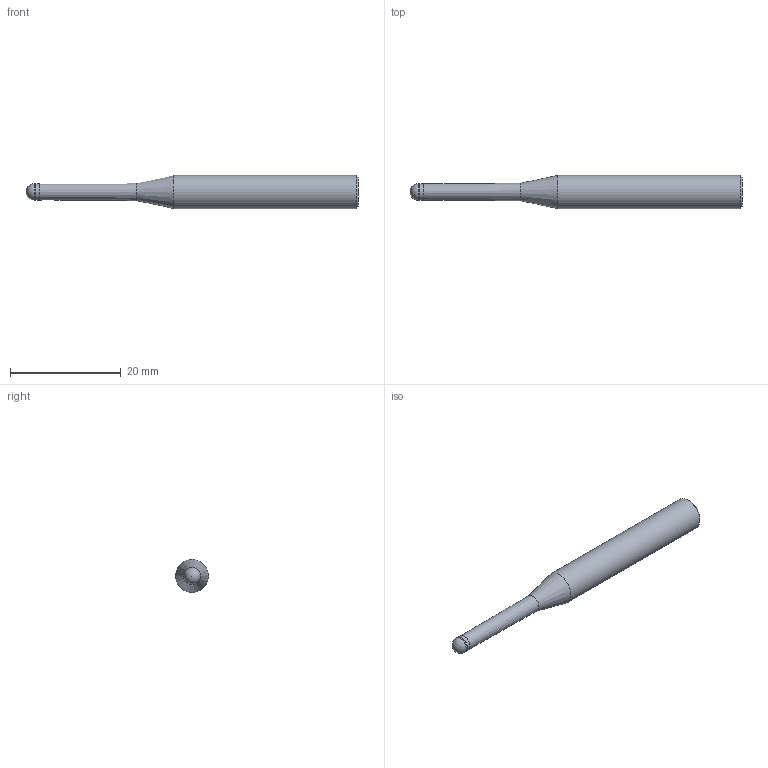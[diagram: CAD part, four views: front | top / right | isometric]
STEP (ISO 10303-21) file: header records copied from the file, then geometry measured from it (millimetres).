
FILE_DESCRIPTION(/* description */ (''),/* implementation_level */ '2;1');
FILE_NAME(/* name */ 'HGXPB2030-20-T0.4 0660.stp',/* time_stamp */ '2026-01-23T15:06:25+08:00',/* author */ (''),/* organization */ (''),/* preprocessor_version */ 'ST-DEVELOPER v16',/* originating_system */ 'SIEMENS PLM Software NX 10.0',/* authorisation */ '');
FILE_SCHEMA (('CONFIG_CONTROL_DESIGN'));
Length unit declared in the file: millimetre
Products named in the file (1): HGXPB2030-20-T0.4 0660_dxf
Bounding box: 60 x 6 x 6 mm (x, y, z)
Volume: 1193.5 mm3; surface area: 940.8 mm2
Topology: 1 solids, 1 shells, 9 faces, 17 edges, 10 vertices
Faces by surface type: cylinder 3, cone 3, plane 2, sphere 1
Full cylindrical faces by diameter (mm): 2.9 x1, 3 x1, 6 x1
Entity records: 258 total; most frequent: DIRECTION 36, CARTESIAN_POINT 26, AXIS2_PLACEMENT_3D 18, EDGE_LOOP 16, ORIENTED_EDGE 16, FACE_BOUND 14, ADVANCED_FACE 9, VERTEX_POINT 8
